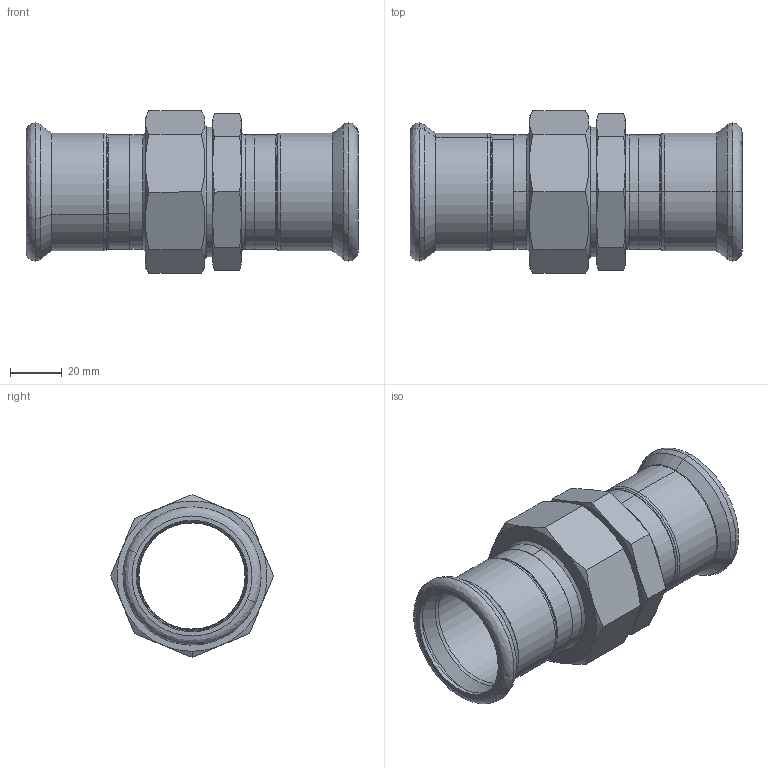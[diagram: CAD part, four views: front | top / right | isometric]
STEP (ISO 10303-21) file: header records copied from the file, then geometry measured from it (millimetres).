
FILE_DESCRIPTION (( 'STEP AP203' ), '1' );
FILE_NAME ('GDA5476.STEP', '2019-01-17T02:18:23', ( '' ), ( '' ), 'SwSTEP 2.0', 'SolidWorks 2015', '' );
FILE_SCHEMA (( 'CONFIG_CONTROL_DESIGN' ));
Length unit declared in the file: millimetre
Products named in the file (7): ZL-Ⅰ-01×1_; T-ｉ-01-42; 42｡ﾁ1_; 42; 1.75; UN-Ⅰ-01×1_; GDA5476
Assembly tree (7 placements, depth 3):
  GDA5476
    42｡ﾁ1_
    1.75
    42  x2
      T-ｉ-01-42
    UN-Ⅰ-01×1_
    ZL-Ⅰ-01×1_
Bounding box: 128 x 62.78 x 62.78 mm (x, y, z)
Volume: 72573 mm3; surface area: 54891.5 mm2
Topology: 6 solids, 6 shells, 180 faces, 380 edges, 219 vertices
Faces by surface type: cone 59, cylinder 44, bspline 42, plane 35
Entity records: 5346 total; most frequent: CARTESIAN_POINT 1691, DIRECTION 635, ORIENTED_EDGE 588, EDGE_CURVE 294, AXIS2_PLACEMENT_3D 283, VERTEX_POINT 171, EDGE_LOOP 155, CIRCLE 155
